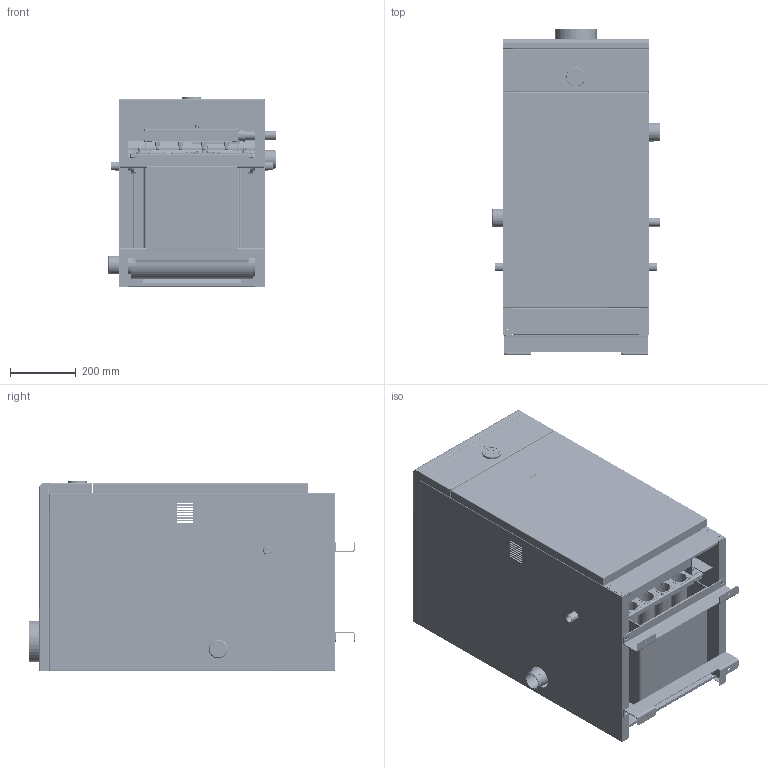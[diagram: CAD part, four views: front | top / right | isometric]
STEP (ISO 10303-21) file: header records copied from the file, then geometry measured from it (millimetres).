
FILE_DESCRIPTION(('STEP AP242'), '1');
FILE_NAME('ﾒﾈﾒﾀﾍ 2016', '', ('UNSPECIFIED'), ('UNSPECIFIED'), 'ASCON STEP Converter 1.6', 'ASCON Math Kernel', '');
FILE_SCHEMA(('AP242_MANAGED_MODEL_BASED_3D_ENGINEERING_MIM_LF { 1 0 10303 442 1 1 4 }'));
Length unit declared in the file: millimetre
Products named in the file (82): КЕВМ.3106.00.00.000-12; -02; КЕВМ.3103.01.01.002-02; КЕВМ.3101.05.00.001; КЕВМ.3103.01.02.003-02; КЕВМ.3103.01.02.004; КЕВМ.3101.05.00.007; -01; Заглушка Ду15; Клапан манометра 1_2'''' х 1_4''''; Колба защитная; Кран маевского; Заглушка Ду50; КЕВМ.3106.01.00.000-22; КЕВМ.3106.01.00.001-02; КЕВМ.3106.01.00.002-02; КЕВМ.3106.01.01.000-12; КЕВМ.3106.01.01.001-12; КЕВМ.3105.02.01.002; КЕВМ.3105.03.01.014; КЕВМ.3106.01.00.003-12; САБК-ТР 02.00.000-05; КЕВМ.3106.01.00.003-02; КЕВМ.3106.01.00.002-12; -102; КЕВМ.3106.00.00.001; КЕВМ.3106.00.00.001-01; -11; КЕВМ.3106.00.00.004-02; КЕВМ.3106.00.00.005-02; Предохранитель; Кнопка сброса аварии 1А 125V.AC; Переключатель зима-лето switronic 6A 250V AC; Термостат аварийный IMIT; Колпачек термостата; Реле TR91F-220VAC-SC-C (1пер,220V,40А,240VAC); Значек 4А 10х10; Значек RESET 10х10; Значек зима 10х10; Значек лето 10х10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
Assembly tree (129 placements, depth 4):
  КЕВМ.3106.00.00.000-12
    -02
      -02
      -02
        -02
        КЕВМ.3103.01.01.002-02  x2
      -02
        -02
        (unnamed)
        КЕВМ.3101.05.00.001
        -02
        -02
        КЕВМ.3103.01.02.003-02
        КЕВМ.3103.01.02.004
        КЕВМ.3101.05.00.007
      -02
      -02
      (unnamed)
      -01
      Заглушка Ду15
      Клапан манометра 1_2'''' х 1_4''''
      Колба защитная
      Кран маевского
      Заглушка Ду50  x2
      (unnamed)  x2
      (unnamed)  x2
      (unnamed)  x4
    КЕВМ.3106.01.00.000-22
      КЕВМ.3106.01.00.001-02
      КЕВМ.3106.01.00.002-02
      (unnamed)
      (unnamed)
      (unnamed)  x2
      (unnamed)  x2
      (unnamed)  x2
      (unnamed)
      -02  x4
      (unnamed)  x20
      (unnamed)
      КЕВМ.3106.01.01.000-12
        КЕВМ.3106.01.01.001-12
        КЕВМ.3105.02.01.002  x2
        КЕВМ.3105.03.01.014  x2
        КЕВМ.3106.01.00.003-12
        -01  x4
        (unnamed)  x8
      САБК-ТР 02.00.000-05
      (unnamed)  x2
      КЕВМ.3106.01.00.003-02
      КЕВМ.3106.01.00.002-12
    (unnamed)  x2
    -102
      КЕВМ.3106.00.00.001
      КЕВМ.3106.00.00.001-01
      -01
      -11
      КЕВМ.3106.00.00.004-02
      КЕВМ.3106.00.00.005-02
      -02
      (unnamed)
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Bounding box: 510.5 x 986 x 577.6 mm (x, y, z)
Volume: 51073093.4 mm3; surface area: 9512511.8 mm2
Topology: 137 solids, 141 shells, 7127 faces, 18808 edges, 12283 vertices
Faces by surface type: plane 4174, cylinder 2327, bspline 398, cone 97, extrusion 72, torus 39, sphere 20
Full cylindrical faces by diameter (mm): 0.6 x1, 0.7 x528, 1.9 x4, 2 x1, 2.5 x1, 2.8 x4, 3 x44, 3.1 x1, 3.2 x20, 4 x37, 4.2 x20, 4.5 x10, 5 x25, 6 x6, 6.2 x1, 6.6 x1, 6.647 x4, 6.7 x2, 6.917 x5, 7 x2, 7.1 x1, 8 x26, 8.4 x1, 8.5 x4, 8.917 x5, 9 x4, 9.8 x1, 10 x40, 10.5 x3, 11 x1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
Entity records: 234521 total; most frequent: CARTESIAN_POINT 90016, ORIENTED_EDGE 24655, DIRECTION 22740, EDGE_CURVE 12332, VECTOR 8470, LINE 8398, VERTEX_POINT 8273, AXIS2_PLACEMENT_3D 7135
